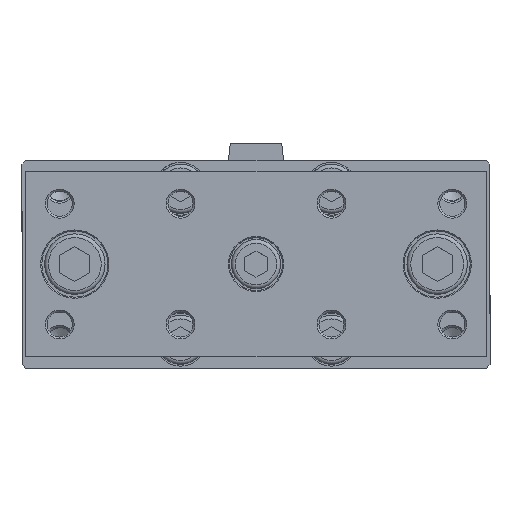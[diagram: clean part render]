
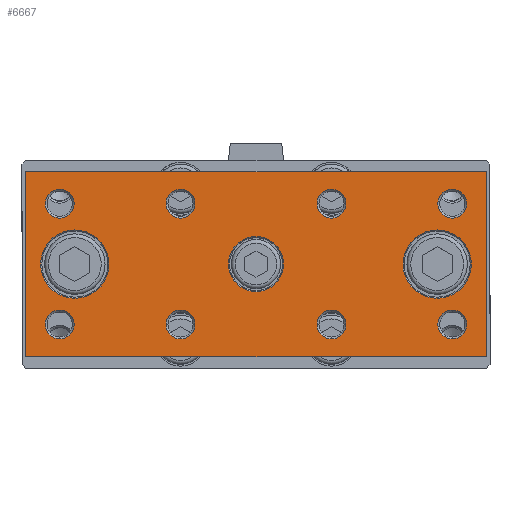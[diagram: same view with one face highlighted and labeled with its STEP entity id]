
A CAD part, top view. The second image highlights one B-rep face of the part: STEP entity #6667.
In plain terms, the highlighted planar face has unit normal (0, 0, 1).
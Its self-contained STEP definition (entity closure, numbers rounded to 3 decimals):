
#6503=CARTESIAN_POINT('',(-38.352,1.555,168.5));
#6504=VERTEX_POINT('',#6503);
#6505=CARTESIAN_POINT('',(-47.402,1.555,168.5));
#6506=DIRECTION('',(0.0,0.0,1.0));
#6507=DIRECTION('',(-1.0,0.0,0.0));
#6508=AXIS2_PLACEMENT_3D('',#6505,#6506,#6507);
#6509=CIRCLE('',#6508,9.05);
#6510=EDGE_CURVE('',#6504,#6504,#6509,.T.);
#6515=CARTESIAN_POINT('',(0.598,5.555,168.5));
#6516=DIRECTION('',(0.0,0.0,1.0));
#6517=DIRECTION('',(1.0,0.0,0.0));
#6518=AXIS2_PLACEMENT_3D('',#6515,#6516,#6517);
#6519=PLANE('',#6518);
#6520=CARTESIAN_POINT('',(61.598,26.055,168.5));
#6521=VERTEX_POINT('',#6520);
#6522=CARTESIAN_POINT('',(61.598,-22.945,168.5));
#6523=VERTEX_POINT('',#6522);
#6524=CARTESIAN_POINT('',(61.598,26.055,168.5));
#6525=DIRECTION('',(0.0,-1.0,0.0));
#6526=VECTOR('',#6525,49.);
#6527=LINE('',#6524,#6526);
#6528=EDGE_CURVE('',#6521,#6523,#6527,.T.);
#6529=ORIENTED_EDGE('',*,*,#6528,.F.);
#6530=CARTESIAN_POINT('',(-60.402,26.055,168.5));
#6531=VERTEX_POINT('',#6530);
#6532=CARTESIAN_POINT('',(-60.402,26.055,168.5));
#6533=DIRECTION('',(1.0,0.0,0.0));
#6534=VECTOR('',#6533,122.0);
#6535=LINE('',#6532,#6534);
#6536=EDGE_CURVE('',#6531,#6521,#6535,.T.);
#6537=ORIENTED_EDGE('',*,*,#6536,.F.);
#6538=CARTESIAN_POINT('',(-60.402,-22.945,168.5));
#6539=VERTEX_POINT('',#6538);
#6540=CARTESIAN_POINT('',(-60.402,-22.945,168.5));
#6541=DIRECTION('',(0.0,1.0,0.0));
#6542=VECTOR('',#6541,49.);
#6543=LINE('',#6540,#6542);
#6544=EDGE_CURVE('',#6539,#6531,#6543,.T.);
#6545=ORIENTED_EDGE('',*,*,#6544,.F.);
#6546=CARTESIAN_POINT('',(61.598,-22.945,168.5));
#6547=DIRECTION('',(-1.0,0.0,0.0));
#6548=VECTOR('',#6547,122.0);
#6549=LINE('',#6546,#6548);
#6550=EDGE_CURVE('',#6523,#6539,#6549,.T.);
#6551=ORIENTED_EDGE('',*,*,#6550,.F.);
#6552=EDGE_LOOP('',(#6529,#6537,#6545,#6551));
#6553=FACE_OUTER_BOUND('',#6552,.T.);
#6554=CARTESIAN_POINT('',(7.898,1.555,168.5));
#6555=VERTEX_POINT('',#6554);
#6556=CARTESIAN_POINT('',(0.598,1.555,168.5));
#6557=DIRECTION('',(0.0,0.0,1.0));
#6558=DIRECTION('',(-1.0,0.0,0.0));
#6559=AXIS2_PLACEMENT_3D('',#6556,#6557,#6558);
#6560=CIRCLE('',#6559,7.3);
#6561=EDGE_CURVE('',#6555,#6555,#6560,.T.);
#6562=ORIENTED_EDGE('',*,*,#6561,.F.);
#6563=EDGE_LOOP('',(#6562));
#6564=FACE_BOUND('',#6563,.T.);
#6565=CARTESIAN_POINT('',(24.422,-14.445,168.5));
#6566=VERTEX_POINT('',#6565);
#6567=CARTESIAN_POINT('',(20.598,-14.445,168.5));
#6568=DIRECTION('',(0.0,0.0,1.0));
#6569=DIRECTION('',(-1.0,0.0,0.0));
#6570=AXIS2_PLACEMENT_3D('',#6567,#6568,#6569);
#6571=CIRCLE('',#6570,3.824);
#6572=EDGE_CURVE('',#6566,#6566,#6571,.T.);
#6573=ORIENTED_EDGE('',*,*,#6572,.F.);
#6574=EDGE_LOOP('',(#6573));
#6575=FACE_BOUND('',#6574,.T.);
#6576=CARTESIAN_POINT('',(-47.578,-14.445,168.5));
#6577=VERTEX_POINT('',#6576);
#6578=CARTESIAN_POINT('',(-51.402,-14.445,168.5));
#6579=DIRECTION('',(0.0,0.0,1.0));
#6580=DIRECTION('',(-1.0,0.0,0.0));
#6581=AXIS2_PLACEMENT_3D('',#6578,#6579,#6580);
#6582=CIRCLE('',#6581,3.823);
#6583=EDGE_CURVE('',#6577,#6577,#6582,.T.);
#6584=ORIENTED_EDGE('',*,*,#6583,.F.);
#6585=EDGE_LOOP('',(#6584));
#6586=FACE_BOUND('',#6585,.T.);
#6587=CARTESIAN_POINT('',(56.422,17.555,168.5));
#6588=VERTEX_POINT('',#6587);
#6589=CARTESIAN_POINT('',(52.598,17.555,168.5));
#6590=DIRECTION('',(0.0,0.0,1.0));
#6591=DIRECTION('',(-1.0,0.0,0.0));
#6592=AXIS2_PLACEMENT_3D('',#6589,#6590,#6591);
#6593=CIRCLE('',#6592,3.823);
#6594=EDGE_CURVE('',#6588,#6588,#6593,.T.);
#6595=ORIENTED_EDGE('',*,*,#6594,.F.);
#6596=EDGE_LOOP('',(#6595));
#6597=FACE_BOUND('',#6596,.T.);
#6598=CARTESIAN_POINT('',(56.422,-14.445,168.5));
#6599=VERTEX_POINT('',#6598);
#6600=CARTESIAN_POINT('',(52.598,-14.445,168.5));
#6601=DIRECTION('',(0.0,0.0,1.0));
#6602=DIRECTION('',(-1.0,0.0,0.0));
#6603=AXIS2_PLACEMENT_3D('',#6600,#6601,#6602);
#6604=CIRCLE('',#6603,3.823);
#6605=EDGE_CURVE('',#6599,#6599,#6604,.T.);
#6606=ORIENTED_EDGE('',*,*,#6605,.F.);
#6607=EDGE_LOOP('',(#6606));
#6608=FACE_BOUND('',#6607,.T.);
#6609=CARTESIAN_POINT('',(-47.578,17.555,168.5));
#6610=VERTEX_POINT('',#6609);
#6611=CARTESIAN_POINT('',(-51.402,17.555,168.5));
#6612=DIRECTION('',(0.0,0.0,1.0));
#6613=DIRECTION('',(-1.0,0.0,0.0));
#6614=AXIS2_PLACEMENT_3D('',#6611,#6612,#6613);
#6615=CIRCLE('',#6614,3.823);
#6616=EDGE_CURVE('',#6610,#6610,#6615,.T.);
#6617=ORIENTED_EDGE('',*,*,#6616,.F.);
#6618=EDGE_LOOP('',(#6617));
#6619=FACE_BOUND('',#6618,.T.);
#6620=CARTESIAN_POINT('',(-15.578,17.555,168.5));
#6621=VERTEX_POINT('',#6620);
#6622=CARTESIAN_POINT('',(-19.402,17.555,168.5));
#6623=DIRECTION('',(0.0,0.0,1.0));
#6624=DIRECTION('',(-1.0,0.0,0.0));
#6625=AXIS2_PLACEMENT_3D('',#6622,#6623,#6624);
#6626=CIRCLE('',#6625,3.823);
#6627=EDGE_CURVE('',#6621,#6621,#6626,.T.);
#6628=ORIENTED_EDGE('',*,*,#6627,.F.);
#6629=EDGE_LOOP('',(#6628));
#6630=FACE_BOUND('',#6629,.T.);
#6631=CARTESIAN_POINT('',(24.422,17.555,168.5));
#6632=VERTEX_POINT('',#6631);
#6633=CARTESIAN_POINT('',(20.598,17.555,168.5));
#6634=DIRECTION('',(0.0,0.0,1.0));
#6635=DIRECTION('',(-1.0,0.0,0.0));
#6636=AXIS2_PLACEMENT_3D('',#6633,#6634,#6635);
#6637=CIRCLE('',#6636,3.824);
#6638=EDGE_CURVE('',#6632,#6632,#6637,.T.);
#6639=ORIENTED_EDGE('',*,*,#6638,.F.);
#6640=EDGE_LOOP('',(#6639));
#6641=FACE_BOUND('',#6640,.T.);
#6642=CARTESIAN_POINT('',(-15.578,-14.445,168.5));
#6643=VERTEX_POINT('',#6642);
#6644=CARTESIAN_POINT('',(-19.402,-14.445,168.5));
#6645=DIRECTION('',(0.0,0.0,1.0));
#6646=DIRECTION('',(-1.0,0.0,0.0));
#6647=AXIS2_PLACEMENT_3D('',#6644,#6645,#6646);
#6648=CIRCLE('',#6647,3.823);
#6649=EDGE_CURVE('',#6643,#6643,#6648,.T.);
#6650=ORIENTED_EDGE('',*,*,#6649,.F.);
#6651=EDGE_LOOP('',(#6650));
#6652=FACE_BOUND('',#6651,.T.);
#6653=CARTESIAN_POINT('',(57.648,1.555,168.5));
#6654=VERTEX_POINT('',#6653);
#6655=CARTESIAN_POINT('',(48.598,1.555,168.5));
#6656=DIRECTION('',(0.0,0.0,1.0));
#6657=DIRECTION('',(-1.0,0.0,0.0));
#6658=AXIS2_PLACEMENT_3D('',#6655,#6656,#6657);
#6659=CIRCLE('',#6658,9.05);
#6660=EDGE_CURVE('',#6654,#6654,#6659,.T.);
#6661=ORIENTED_EDGE('',*,*,#6660,.F.);
#6662=EDGE_LOOP('',(#6661));
#6663=FACE_BOUND('',#6662,.T.);
#6664=ORIENTED_EDGE('',*,*,#6510,.F.);
#6665=EDGE_LOOP('',(#6664));
#6666=FACE_BOUND('',#6665,.T.);
#6667=ADVANCED_FACE('',(#6553,#6564,#6575,#6586,#6597,#6608,#6619,#6630,#6641,#6652,#6663,#6666),#6519,.T.);
